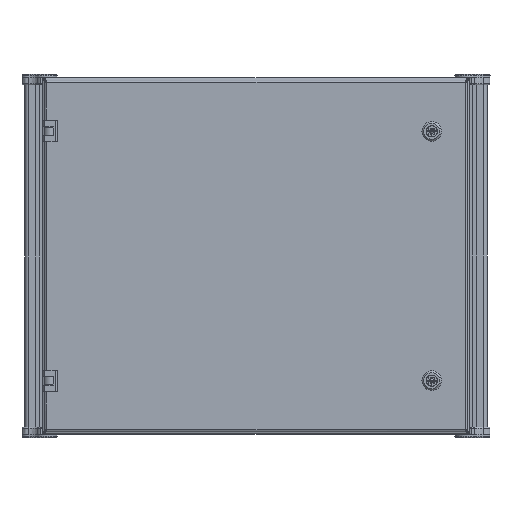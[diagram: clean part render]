
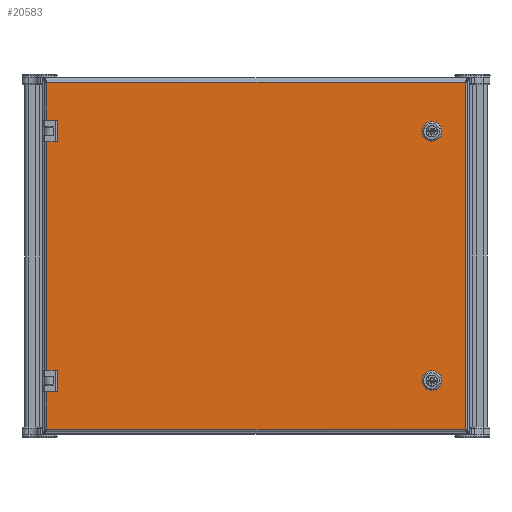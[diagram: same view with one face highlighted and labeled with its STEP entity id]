
A CAD part, front view. The second image highlights one B-rep face of the part: STEP entity #20583.
In plain terms, the highlighted planar face has unit normal (0, -1, 0).
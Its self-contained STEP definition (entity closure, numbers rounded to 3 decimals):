
#6317=ORIENTED_EDGE('',*,*,#10139,.F.);
#6318=ORIENTED_EDGE('',*,*,#10136,.F.);
#6319=ORIENTED_EDGE('',*,*,#10157,.F.);
#6320=ORIENTED_EDGE('',*,*,#10154,.F.);
#6321=ORIENTED_EDGE('',*,*,#10151,.F.);
#6322=ORIENTED_EDGE('',*,*,#10148,.F.);
#6323=ORIENTED_EDGE('',*,*,#10145,.F.);
#6324=ORIENTED_EDGE('',*,*,#10142,.F.);
#6325=ORIENTED_EDGE('',*,*,#10187,.F.);
#6326=ORIENTED_EDGE('',*,*,#10188,.F.);
#6327=ORIENTED_EDGE('',*,*,#10189,.F.);
#6328=ORIENTED_EDGE('',*,*,#10190,.F.);
#6329=ORIENTED_EDGE('',*,*,#10191,.F.);
#6330=ORIENTED_EDGE('',*,*,#10192,.F.);
#6331=ORIENTED_EDGE('',*,*,#10193,.F.);
#6332=ORIENTED_EDGE('',*,*,#10194,.F.);
#6333=ORIENTED_EDGE('',*,*,#10195,.T.);
#6334=ORIENTED_EDGE('',*,*,#10167,.T.);
#6335=ORIENTED_EDGE('',*,*,#10159,.T.);
#6336=ORIENTED_EDGE('',*,*,#10169,.T.);
#6337=ORIENTED_EDGE('',*,*,#10120,.T.);
#6338=ORIENTED_EDGE('',*,*,#10196,.T.);
#6339=ORIENTED_EDGE('',*,*,#10197,.T.);
#6340=ORIENTED_EDGE('',*,*,#10198,.T.);
#6341=ORIENTED_EDGE('',*,*,#10199,.T.);
#6342=ORIENTED_EDGE('',*,*,#10200,.T.);
#6343=ORIENTED_EDGE('',*,*,#10201,.F.);
#6344=ORIENTED_EDGE('',*,*,#10202,.T.);
#10120=EDGE_CURVE('',#12363,#12362,#14033,.T.);
#10136=EDGE_CURVE('',#12374,#12375,#14046,.T.);
#10139=EDGE_CURVE('',#12375,#12377,#14049,.T.);
#10142=EDGE_CURVE('',#12377,#12379,#14052,.T.);
#10145=EDGE_CURVE('',#12379,#12381,#14055,.T.);
#10148=EDGE_CURVE('',#12381,#12383,#14058,.T.);
#10151=EDGE_CURVE('',#12383,#12385,#14061,.T.);
#10154=EDGE_CURVE('',#12385,#12387,#14064,.T.);
#10157=EDGE_CURVE('',#12387,#12374,#14067,.T.);
#10159=EDGE_CURVE('',#12390,#12389,#14069,.T.);
#10167=EDGE_CURVE('',#12397,#12390,#14076,.T.);
#10169=EDGE_CURVE('',#12389,#12363,#14077,.T.);
#10187=EDGE_CURVE('',#12413,#12414,#14095,.T.);
#10188=EDGE_CURVE('',#12415,#12413,#14096,.T.);
#10189=EDGE_CURVE('',#12416,#12415,#14097,.T.);
#10190=EDGE_CURVE('',#12417,#12416,#14098,.T.);
#10191=EDGE_CURVE('',#12418,#12417,#14099,.T.);
#10192=EDGE_CURVE('',#12419,#12418,#14100,.T.);
#10193=EDGE_CURVE('',#12420,#12419,#14101,.T.);
#10194=EDGE_CURVE('',#12414,#12420,#14102,.T.);
#10195=EDGE_CURVE('',#12421,#12397,#14103,.T.);
#10196=EDGE_CURVE('',#12362,#12422,#14104,.T.);
#10197=EDGE_CURVE('',#12422,#12423,#14105,.T.);
#10198=EDGE_CURVE('',#12423,#12424,#14106,.T.);
#10199=EDGE_CURVE('',#12424,#12425,#14107,.T.);
#10200=EDGE_CURVE('',#12425,#12426,#14108,.T.);
#10201=EDGE_CURVE('',#12427,#12426,#14109,.T.);
#10202=EDGE_CURVE('',#12427,#12421,#14110,.T.);
#12362=VERTEX_POINT('',#35784);
#12363=VERTEX_POINT('',#35786);
#12374=VERTEX_POINT('',#35817);
#12375=VERTEX_POINT('',#35819);
#12377=VERTEX_POINT('',#35825);
#12379=VERTEX_POINT('',#35831);
#12381=VERTEX_POINT('',#35837);
#12383=VERTEX_POINT('',#35843);
#12385=VERTEX_POINT('',#35849);
#12387=VERTEX_POINT('',#35855);
#12389=VERTEX_POINT('',#35863);
#12390=VERTEX_POINT('',#35865);
#12397=VERTEX_POINT('',#35881);
#12413=VERTEX_POINT('',#35920);
#12414=VERTEX_POINT('',#35921);
#12415=VERTEX_POINT('',#35923);
#12416=VERTEX_POINT('',#35925);
#12417=VERTEX_POINT('',#35927);
#12418=VERTEX_POINT('',#35929);
#12419=VERTEX_POINT('',#35931);
#12420=VERTEX_POINT('',#35933);
#12421=VERTEX_POINT('',#35936);
#12422=VERTEX_POINT('',#35938);
#12423=VERTEX_POINT('',#35940);
#12424=VERTEX_POINT('',#35942);
#12425=VERTEX_POINT('',#35944);
#12426=VERTEX_POINT('',#35946);
#12427=VERTEX_POINT('',#35948);
#14033=LINE('',#35785,#15693);
#14046=LINE('',#35818,#15706);
#14049=LINE('',#35824,#15709);
#14052=LINE('',#35830,#15712);
#14055=LINE('',#35836,#15715);
#14058=LINE('',#35842,#15718);
#14061=LINE('',#35848,#15721);
#14064=LINE('',#35854,#15724);
#14067=LINE('',#35859,#15727);
#14069=LINE('',#35864,#15729);
#14076=LINE('',#35880,#15736);
#14077=LINE('',#35884,#15737);
#14095=LINE('',#35919,#15755);
#14096=LINE('',#35922,#15756);
#14097=LINE('',#35924,#15757);
#14098=LINE('',#35926,#15758);
#14099=LINE('',#35928,#15759);
#14100=LINE('',#35930,#15760);
#14101=LINE('',#35932,#15761);
#14102=LINE('',#35934,#15762);
#14103=LINE('',#35935,#15763);
#14104=LINE('',#35937,#15764);
#14105=LINE('',#35939,#15765);
#14106=LINE('',#35941,#15766);
#14107=LINE('',#35943,#15767);
#14108=LINE('',#35945,#15768);
#14109=LINE('',#35947,#15769);
#14110=LINE('',#35949,#15770);
#15693=VECTOR('',#27413,1000.);
#15706=VECTOR('',#27442,1000.);
#15709=VECTOR('',#27447,1000.);
#15712=VECTOR('',#27452,1000.);
#15715=VECTOR('',#27457,1000.);
#15718=VECTOR('',#27462,1000.);
#15721=VECTOR('',#27467,1000.);
#15724=VECTOR('',#27472,1000.);
#15727=VECTOR('',#27477,1000.);
#15729=VECTOR('',#27481,1000.);
#15736=VECTOR('',#27492,1000.);
#15737=VECTOR('',#27497,1000.);
#15755=VECTOR('',#27519,1000.);
#15756=VECTOR('',#27520,1000.);
#15757=VECTOR('',#27521,1000.);
#15758=VECTOR('',#27522,1000.);
#15759=VECTOR('',#27523,1000.);
#15760=VECTOR('',#27524,1000.);
#15761=VECTOR('',#27525,1000.);
#15762=VECTOR('',#27526,1000.);
#15763=VECTOR('',#27527,1000.);
#15764=VECTOR('',#27528,1000.);
#15765=VECTOR('',#27529,1000.);
#15766=VECTOR('',#27530,1000.);
#15767=VECTOR('',#27531,1000.);
#15768=VECTOR('',#27532,1000.);
#15769=VECTOR('',#27533,1000.);
#15770=VECTOR('',#27534,1000.);
#17362=EDGE_LOOP('',(#6317,#6318,#6319,#6320,#6321,#6322,#6323,#6324));
#17363=EDGE_LOOP('',(#6325,#6326,#6327,#6328,#6329,#6330,#6331,#6332));
#17364=EDGE_LOOP('',(#6333,#6334,#6335,#6336,#6337,#6338,#6339,#6340,#6341,
#6342,#6343,#6344));
#18816=FACE_BOUND('',#17362,.T.);
#18817=FACE_BOUND('',#17363,.T.);
#18818=FACE_BOUND('',#17364,.T.);
#19593=PLANE('',#23076);
#20583=ADVANCED_FACE('',(#18816,#18817,#18818),#19593,.F.);
#23076=AXIS2_PLACEMENT_3D('',#35918,#27517,#27518);
#27413=DIRECTION('',(0.,0.,-1.));
#27442=DIRECTION('',(-1.,0.,0.));
#27447=DIRECTION('',(-0.707,0.,-0.707));
#27452=DIRECTION('',(0.,0.,-1.));
#27457=DIRECTION('',(0.707,0.,-0.707));
#27462=DIRECTION('',(1.,0.,0.));
#27467=DIRECTION('',(0.707,0.,0.707));
#27472=DIRECTION('',(0.,0.,1.));
#27477=DIRECTION('',(-0.707,0.,0.707));
#27481=DIRECTION('',(0.,0.,-1.));
#27492=DIRECTION('',(1.,0.,0.));
#27497=DIRECTION('',(-1.,0.,0.));
#27517=DIRECTION('',(0.,1.,0.));
#27518=DIRECTION('',(0.,0.,1.));
#27519=DIRECTION('',(-0.707,0.,-0.707));
#27520=DIRECTION('',(-1.,0.,0.));
#27521=DIRECTION('',(-0.707,0.,0.707));
#27522=DIRECTION('',(0.,0.,1.));
#27523=DIRECTION('',(0.707,0.,0.707));
#27524=DIRECTION('',(1.,0.,0.));
#27525=DIRECTION('',(0.707,0.,-0.707));
#27526=DIRECTION('',(0.,0.,-1.));
#27527=DIRECTION('',(0.,0.,-1.));
#27528=DIRECTION('',(1.,0.,0.));
#27529=DIRECTION('',(0.,0.,-1.));
#27530=DIRECTION('',(-1.,0.,0.));
#27531=DIRECTION('',(0.,0.,-1.));
#27532=DIRECTION('',(1.,0.,0.));
#27533=DIRECTION('',(0.,0.,-1.));
#27534=DIRECTION('',(-1.,0.,0.));
#35784=CARTESIAN_POINT('',(-298.539,0.,-167.767));
#35785=CARTESIAN_POINT('',(-298.539,0.,-250.825));
#35786=CARTESIAN_POINT('',(-298.539,0.,167.767));
#35817=CARTESIAN_POINT('',(256.692,0.,187.846));
#35818=CARTESIAN_POINT('',(256.692,0.,187.846));
#35819=CARTESIAN_POINT('',(244.958,0.,187.846));
#35824=CARTESIAN_POINT('',(244.958,0.,187.846));
#35825=CARTESIAN_POINT('',(240.779,0.,183.667));
#35830=CARTESIAN_POINT('',(240.779,0.,183.667));
#35831=CARTESIAN_POINT('',(240.779,0.,171.933));
#35836=CARTESIAN_POINT('',(240.779,0.,171.933));
#35837=CARTESIAN_POINT('',(244.958,0.,167.754));
#35842=CARTESIAN_POINT('',(244.958,0.,167.754));
#35843=CARTESIAN_POINT('',(256.692,0.,167.754));
#35848=CARTESIAN_POINT('',(260.871,0.,171.933));
#35849=CARTESIAN_POINT('',(260.871,0.,171.933));
#35854=CARTESIAN_POINT('',(260.871,0.,171.933));
#35855=CARTESIAN_POINT('',(260.871,0.,183.667));
#35859=CARTESIAN_POINT('',(256.692,0.,187.846));
#35863=CARTESIAN_POINT('',(-287.35,0.,167.767));
#35864=CARTESIAN_POINT('',(-287.35,0.,187.833));
#35865=CARTESIAN_POINT('',(-287.35,0.,187.833));
#35880=CARTESIAN_POINT('',(-301.625,0.,187.833));
#35881=CARTESIAN_POINT('',(-298.539,0.,187.833));
#35884=CARTESIAN_POINT('',(-287.35,0.,167.767));
#35918=CARTESIAN_POINT('',(0.,0.,0.));
#35919=CARTESIAN_POINT('',(244.958,0.,-167.754));
#35920=CARTESIAN_POINT('',(244.958,0.,-167.754));
#35921=CARTESIAN_POINT('',(240.779,0.,-171.933));
#35922=CARTESIAN_POINT('',(256.692,0.,-167.754));
#35923=CARTESIAN_POINT('',(256.692,0.,-167.754));
#35924=CARTESIAN_POINT('',(256.692,0.,-167.754));
#35925=CARTESIAN_POINT('',(260.871,0.,-171.933));
#35926=CARTESIAN_POINT('',(260.871,0.,-183.667));
#35927=CARTESIAN_POINT('',(260.871,0.,-183.667));
#35928=CARTESIAN_POINT('',(260.871,0.,-183.667));
#35929=CARTESIAN_POINT('',(256.692,0.,-187.846));
#35930=CARTESIAN_POINT('',(244.958,0.,-187.846));
#35931=CARTESIAN_POINT('',(244.958,0.,-187.846));
#35932=CARTESIAN_POINT('',(240.779,0.,-183.667));
#35933=CARTESIAN_POINT('',(240.779,0.,-183.667));
#35934=CARTESIAN_POINT('',(240.779,0.,-171.933));
#35935=CARTESIAN_POINT('',(-298.539,0.,-250.825));
#35936=CARTESIAN_POINT('',(-298.539,0.,247.739));
#35937=CARTESIAN_POINT('',(-301.625,0.,-167.767));
#35938=CARTESIAN_POINT('',(-287.35,0.,-167.767));
#35939=CARTESIAN_POINT('',(-287.35,0.,-167.767));
#35940=CARTESIAN_POINT('',(-287.35,0.,-187.833));
#35941=CARTESIAN_POINT('',(-287.35,0.,-187.833));
#35942=CARTESIAN_POINT('',(-298.539,0.,-187.833));
#35943=CARTESIAN_POINT('',(-298.539,0.,-250.825));
#35944=CARTESIAN_POINT('',(-298.539,0.,-247.739));
#35945=CARTESIAN_POINT('',(298.539,0.,-247.739));
#35946=CARTESIAN_POINT('',(298.539,0.,-247.739));
#35947=CARTESIAN_POINT('',(298.539,0.,247.739));
#35948=CARTESIAN_POINT('',(298.539,0.,247.739));
#35949=CARTESIAN_POINT('',(-301.625,0.,247.739));
